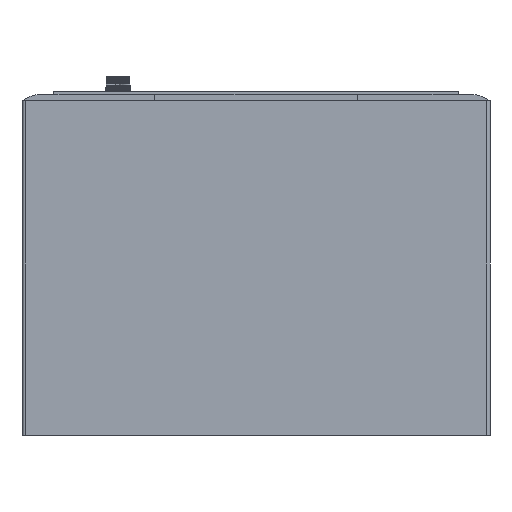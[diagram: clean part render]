
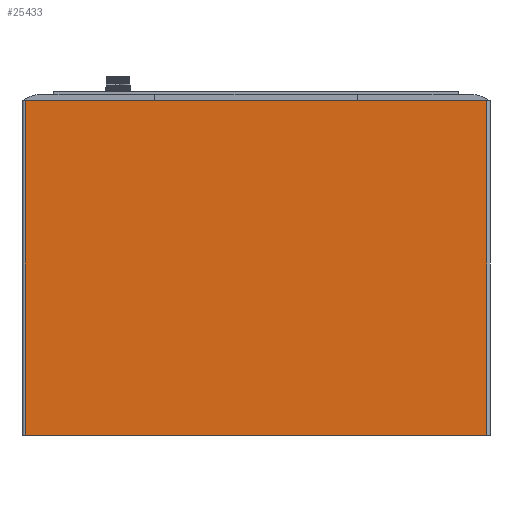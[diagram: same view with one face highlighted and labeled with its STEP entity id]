
A CAD part, front view. The second image highlights one B-rep face of the part: STEP entity #25433.
In plain terms, the highlighted planar face has unit normal (0, -1, 0).
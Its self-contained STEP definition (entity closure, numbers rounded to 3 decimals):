
#1547=PLANE('',#27368);
#2594=FACE_OUTER_BOUND('',#4500,.T.);
#4500=EDGE_LOOP('',(#18270,#18271,#18272,#18273));
#6525=LINE('',#36799,#8751);
#6530=LINE('',#36823,#8756);
#6532=LINE('',#36835,#8758);
#6533=LINE('',#36837,#8759);
#8751=VECTOR('',#29946,10.);
#8756=VECTOR('',#29971,10.);
#8758=VECTOR('',#29985,10.);
#8759=VECTOR('',#29988,10.);
#12059=VERTEX_POINT('',#36796);
#12060=VERTEX_POINT('',#36798);
#12068=VERTEX_POINT('',#36820);
#12069=VERTEX_POINT('',#36822);
#14633=EDGE_CURVE('',#12059,#12060,#6525,.T.);
#14645=EDGE_CURVE('',#12068,#12069,#6530,.T.);
#14652=EDGE_CURVE('',#12060,#12068,#6532,.T.);
#14653=EDGE_CURVE('',#12069,#12059,#6533,.T.);
#18270=ORIENTED_EDGE('',*,*,#14652,.F.);
#18271=ORIENTED_EDGE('',*,*,#14633,.F.);
#18272=ORIENTED_EDGE('',*,*,#14653,.F.);
#18273=ORIENTED_EDGE('',*,*,#14645,.F.);
#25433=ADVANCED_FACE('',(#2594),#1547,.T.);
#27368=AXIS2_PLACEMENT_3D('',#36836,#29986,#29987);
#29946=DIRECTION('',(-1.,0.,0.));
#29971=DIRECTION('',(1.,0.,0.));
#29985=DIRECTION('',(0.,0.,1.));
#29986=DIRECTION('center_axis',(0.,-1.,0.));
#29987=DIRECTION('ref_axis',(0.,0.,-1.));
#29988=DIRECTION('',(0.,0.,-1.));
#36796=CARTESIAN_POINT('',(148.,0.,0.));
#36798=CARTESIAN_POINT('',(-148.,0.,0.));
#36799=CARTESIAN_POINT('',(0.,0.,0.));
#36820=CARTESIAN_POINT('',(-148.,0.,214.6));
#36822=CARTESIAN_POINT('',(148.,0.,214.6));
#36823=CARTESIAN_POINT('',(0.,0.,214.6));
#36835=CARTESIAN_POINT('',(-148.,0.,160.95));
#36836=CARTESIAN_POINT('Origin',(0.,0.,214.6));
#36837=CARTESIAN_POINT('',(148.,0.,160.95));
